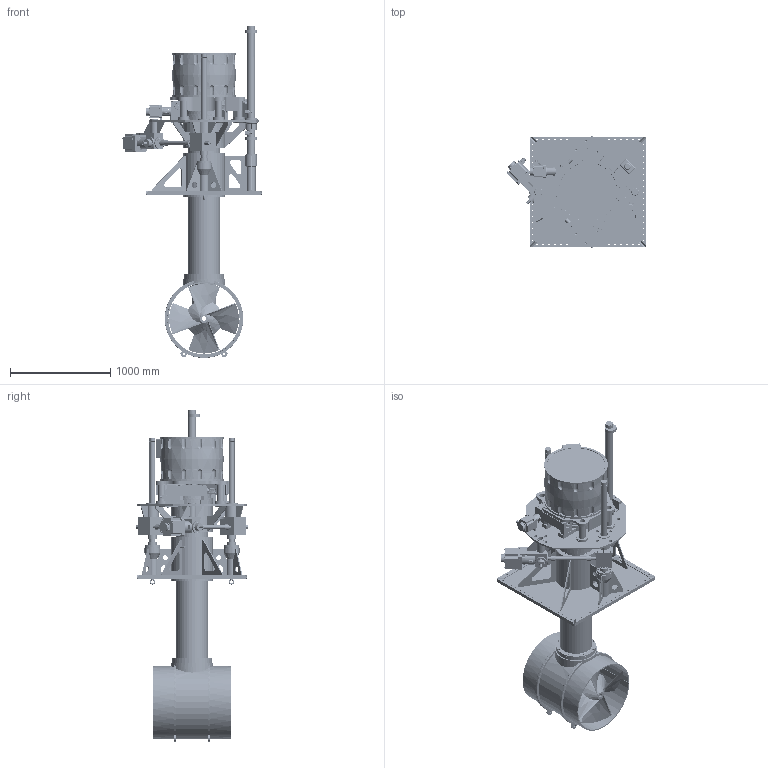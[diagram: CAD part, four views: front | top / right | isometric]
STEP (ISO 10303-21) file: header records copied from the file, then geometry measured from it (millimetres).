
FILE_DESCRIPTION(/* description */ (''),/* implementation_level */ '2;1');
FILE_NAME(/* name */ 'Q:\THRUSTERS\THRUSTER SALES & SUPPORT DOCS\THRUSTER Sales\E-V-R\E-0700-V-R\E-0700-V-R-DEPLOYED.stp',/* time_stamp */ '2021-01-29T08:26:34+00:00',/* author */ ('Barney.Webborn'),/* organization */ (''),/* preprocessor_version */ 'ST-DEVELOPER v17.2',/* originating_system */ 'Autodesk Inventor 2019',/* authorisation */ '');
FILE_SCHEMA (('AUTOMOTIVE_DESIGN { 1 0 10303 214 3 1 1 }'));
Products named in the file (1): E-0700-V-R_Shrinkwrap_1
Bounding box: 1390.08 x 1130.21 x 3318.6 mm (x, y, z)
Volume: 348451364 mm3; surface area: 24905681.6 mm2
Topology: 7 solids, 7 shells, 5192 faces, 14286 edges, 9426 vertices
Faces by surface type: plane 2172, cylinder 1669, cone 685, torus 500, bspline 107, sphere 59
Full cylindrical faces by diameter (mm): 3 x6, 4 x8, 4.95 x8, 5 x1, 5.5 x12, 7 x23, 7.2 x2, 8 x7, 8.5 x16, 9 x1, 12 x6, 12.4 x24, 12.5 x16, 13 x96, 13.44 x1, 13.494 x12, 13.5 x4, 14 x4, 14.287 x1, 14.3 x1, 15.25 x5, 15.3 x2, 16.5 x8, 17 x19, 17.5 x18, 18 x5, 18.25 x2, 18.376 x2, 18.5 x1, 20 x25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
Entity records: 186540 total; most frequent: CARTESIAN_POINT 48010, ORIENTED_EDGE 28422, DIRECTION 27638, EDGE_CURVE 14211, AXIS2_PLACEMENT_3D 10821, VERTEX_POINT 9426, EDGE_LOOP 6210, LINE 5996
